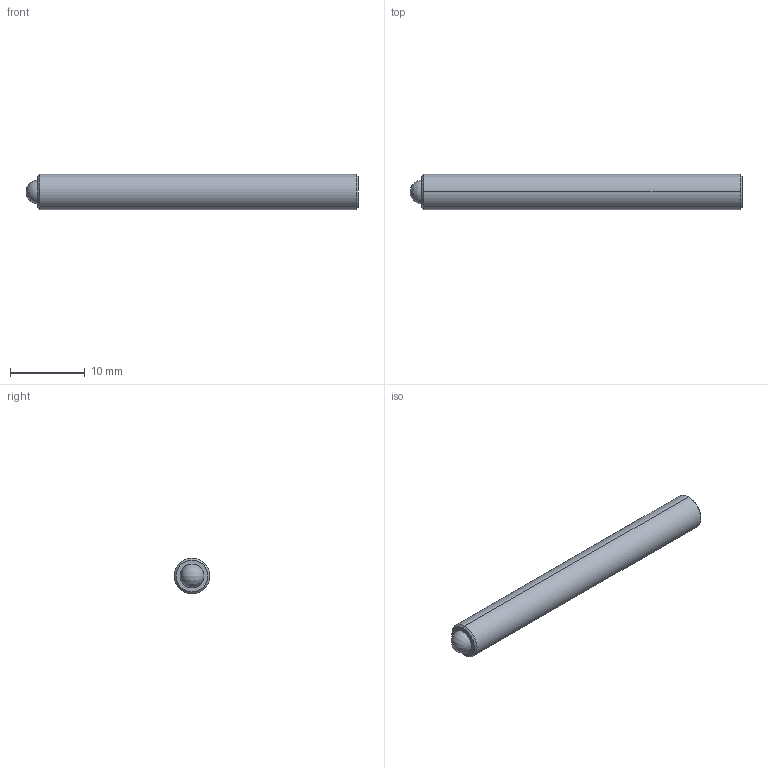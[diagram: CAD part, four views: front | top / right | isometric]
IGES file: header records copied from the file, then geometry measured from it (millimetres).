
Start section: SolidWorks IGES file using analytic representation for surfaces
Global section: file name: C:\Users\workpc\Desktop\KMA Solidworks\TS187-100-1750.IGS; native system: SolidWorks 2013; preprocessor: SolidWorks 2013; author: workpc; date: 130211.110304; units: inch
Bounding box: 44.45 x 4.75 x 4.75 mm (x, y, z)
Surface area: 733.6 mm2 (no closed solid volume)
Topology: 0 solids, 0 shells, 20 faces, 204 edges, 200 vertices
Faces by surface type: revolution 10, bspline 10
